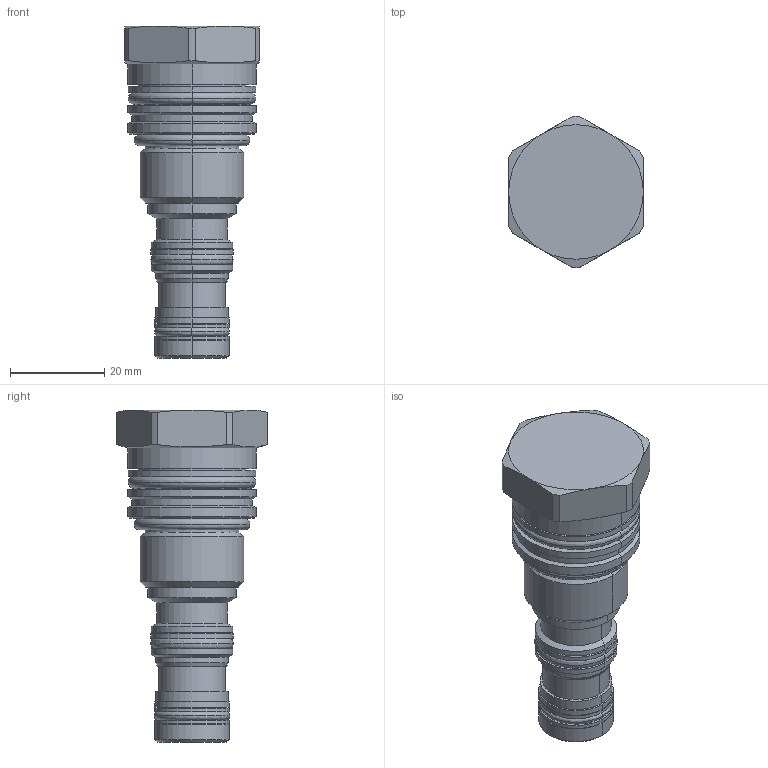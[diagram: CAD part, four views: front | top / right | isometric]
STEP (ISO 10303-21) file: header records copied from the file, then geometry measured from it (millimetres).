
FILE_DESCRIPTION((''),'2;1');
FILE_NAME('5614955_SW0002','2021-04-12T16:36:52',('CY1'),(''),'CREO PARAMETRIC BY PTC INC, 2018020','CREO PARAMETRIC BY PTC INC, 2018020','');
FILE_SCHEMA(('CONFIG_CONTROL_DESIGN'));
Length unit declared in the file: millimetre
Products named in the file (1): 5614955_SW0002
Bounding box: 28.57 x 32.13 x 70.48 mm (x, y, z)
Volume: 26135.1 mm3; surface area: 8430.7 mm2
Topology: 1 solids, 1 shells, 171 faces, 364 edges, 210 vertices
Faces by surface type: cylinder 66, revolution 40, cone 36, plane 23, torus 6
Entity records: 5244 total; most frequent: CARTESIAN_POINT 1486, DIRECTION 814, ORIENTED_EDGE 728, EDGE_CURVE 364, AXIS2_PLACEMENT_3D 336, VERTEX_POINT 210, CIRCLE 204, EDGE_LOOP 186
